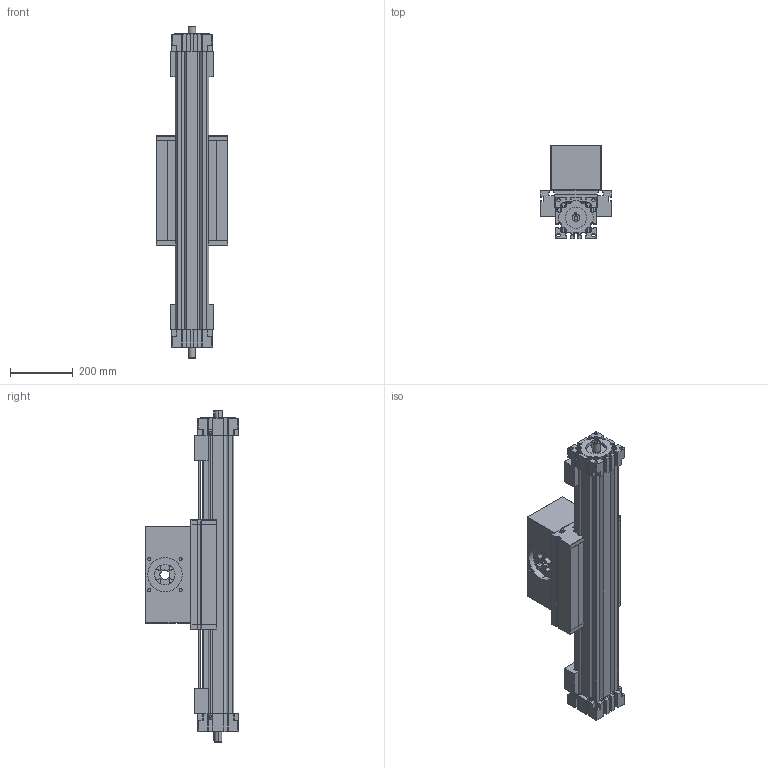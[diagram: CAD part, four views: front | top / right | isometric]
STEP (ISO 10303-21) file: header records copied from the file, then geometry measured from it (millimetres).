
FILE_DESCRIPTION (( 'STEP AP214' ), '1' );
FILE_NAME ('ELSD100 HD.STEP', '2023-09-11T08:43:27', ( '' ), ( '' ), 'SwSTEP 2.0', 'SolidWorks 2020', '' );
FILE_SCHEMA (( 'AUTOMOTIVE_DESIGN' ));
Length unit declared in the file: millimetre
Products named in the file (6): carriage^ELSD100 HD_carriage version 0; timing belt reverse unit^ELSD100 HD_coupling claw pos.1; profile^ELSD100 HD_2x guide rods; drive block^ELSD100 HD_standard; load block^ELSD100 HD_standard; ELSD100 HD
Assembly tree (5 placements, depth 2):
  ELSD100 HD
    profile^ELSD100 HD_2x guide rods
    carriage^ELSD100 HD_carriage version 0
    timing belt reverse unit^ELSD100 HD_coupling claw pos.1
    load block^ELSD100 HD_standard
    drive block^ELSD100 HD_standard
Bounding box: 230 x 297 x 1061.5 mm (x, y, z)
Volume: 19273954.1 mm3; surface area: 1779559.3 mm2
Topology: 12 solids, 12 shells, 1044 faces, 2857 edges, 1875 vertices
Faces by surface type: plane 687, cylinder 310, cone 35, torus 8, sphere 4
Entity records: 36308 total; most frequent: CARTESIAN_POINT 6032, ORIENTED_EDGE 5706, DIRECTION 5600, EDGE_CURVE 2853, VECTOR 2146, LINE 2146, VERTEX_POINT 1875, AXIS2_PLACEMENT_3D 1727
